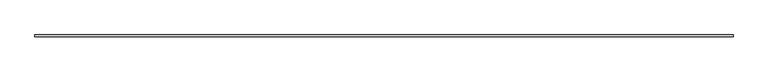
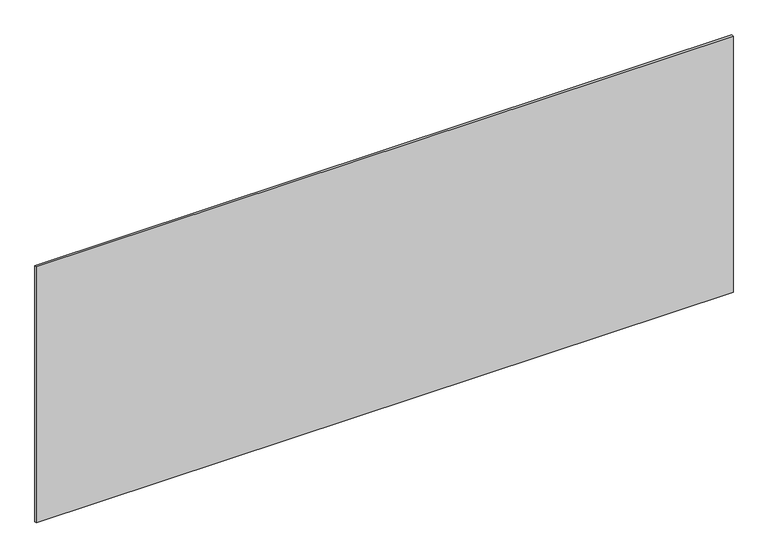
"""IFC4 building model written with IfcOpenShell, lengths in millimetres: plate geometry, システム パネル : 標準."""

from ifc_helpers import new_model, si_unit, origin, origin_with_axes, place, context, project, spatial, polyline, outline, extrude, source, transform, mapped, element, save


def plate_b8464858(model_context):
    return source(origin(), model_context, "Body", "SweptSolid", [
        extrude(outline(polyline([(1715.0, -5.0), (-1715.0, -5.0), (-1715.0, 5.0), (1715.0, 5.0), (1715.0, -5.0)])), origin_with_axes(), (0.0, 0.0, 1.0), 1331.9755531),
    ])


if __name__ == "__main__":
    model = new_model("IFC4")
    model_context = context("Model", 3, world=origin())
    ifc_project = project(units=[si_unit("LENGTHUNIT", "METRE", prefix="MILLI")], contexts=[model_context])
    site = spatial("IfcSite", under=ifc_project)
    building = spatial("IfcBuilding", under=site)
    placement = place(None, origin())
    plate_shape = plate_b8464858(model_context)
    element("IfcPlate", 1, ObjectType="システム パネル : 標準", at=placement, inside=building, context=model_context, shape_type="MappedRepresentation", body=[
        mapped(plate_shape, transform((0.0, 0.0, 0.0), x_axis=(1.0, 0.0, 0.0), y_axis=(0.0, 1.0, 0.0), z_axis=(0.0, 0.0, 1.0))),
    ])
    save(model, "model.ifc")
